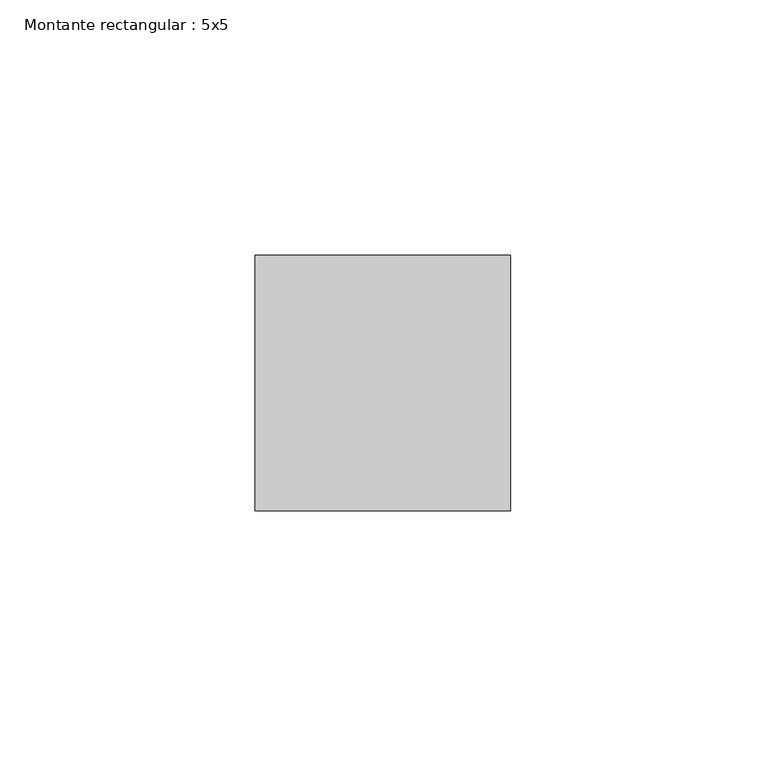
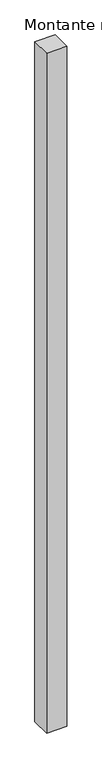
"""IFC4 building model written with IfcOpenShell, lengths in millimetres: member geometry, Montante rectangular : 5x5."""

from ifc_helpers import new_model, si_unit, frame, origin, place, context, project, spatial, polyline, outline, extrude, source, transform, mapped, element, save


def montante_rectangular_5x5_64893cda(model_context):
    return source(origin(), model_context, "Body", "SweptSolid", [
        extrude(outline(polyline([(0.0, 25.0), (0.0, -25.0), (-50.0, -25.0), (-50.0, 25.0), (0.0, 25.0)])), frame((0.0, 0.0, -1780.0), z_axis=(0.0, 0.0, 1.0), x_axis=(1.0, 0.0, 0.0)), (0.0, 0.0, 1.0), 1780.0),
    ])


if __name__ == "__main__":
    model = new_model("IFC4")
    model_context = context("Model", 3, world=origin())
    ifc_project = project(units=[si_unit("LENGTHUNIT", "METRE", prefix="MILLI")], contexts=[model_context])
    site = spatial("IfcSite", under=ifc_project)
    building = spatial("IfcBuilding", under=site)
    placement = place(None, origin())
    montante_rectangular_5x5_shape = montante_rectangular_5x5_64893cda(model_context)
    element("IfcMember", 1, ObjectType="Montante rectangular : 5x5", at=placement, inside=building, context=model_context, shape_type="MappedRepresentation", body=[
        mapped(montante_rectangular_5x5_shape, transform((0.0, 0.0, 0.0), x_axis=(1.0, 0.0, 0.0), y_axis=(0.0, 1.0, 0.0), z_axis=(0.0, 0.0, 1.0))),
    ])
    save(model, "model.ifc")
